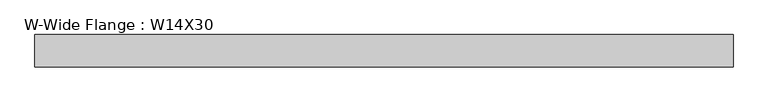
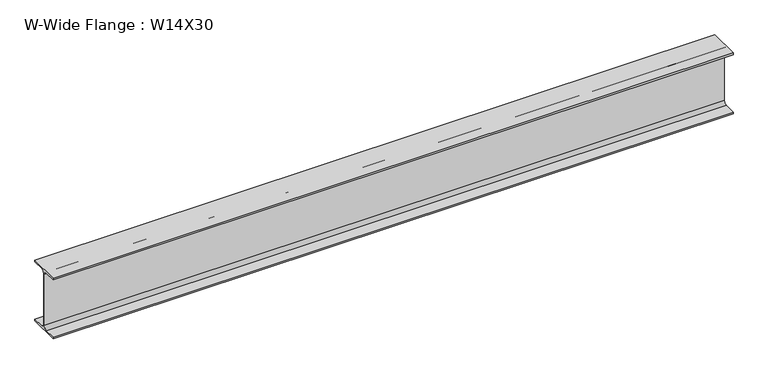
"""IFC4 building model written with IfcOpenShell, lengths in millimetres: beam geometry, W-Wide Flange : W14X30."""

from ifc_helpers import new_model, si_unit, point, frame, frame_2d, origin, place, context, project, spatial, polyline, circle_curve, trimmed, segment, composite_curve, outline, extrude, source, transform, mapped, element, save


def w_wide_flange_w14x30_5e2f6a80(model_context):
    return source(origin(), model_context, "Body", "SweptSolid", [
        extrude(outline(composite_curve([segment(polyline([(85.471, -165.481), (85.471, -175.26), (-85.471, -175.26), (-85.471, -165.481), (-22.225, -165.481)]), True, "CONTINUOUS"), segment(trimmed(circle_curve(frame_2d((-22.225, -146.685)), 18.796), [point((-22.225, -165.481))], [point((-3.429, -146.685))], True, "CARTESIAN"), True, "CONTINUOUS"), segment(polyline([(-3.429, -146.685), (-3.429, 146.685)]), True, "CONTINUOUS"), segment(trimmed(circle_curve(frame_2d((-22.225, 146.685)), 18.796), [point((-3.429, 146.685))], [point((-22.225, 165.481))], True, "CARTESIAN"), True, "CONTINUOUS"), segment(polyline([(-22.225, 165.481), (-85.471, 165.481), (-85.471, 175.26), (85.471, 175.26), (85.471, 165.481), (22.225, 165.481)]), True, "CONTINUOUS"), segment(trimmed(circle_curve(frame_2d((22.225, 146.685)), 18.796), [point((22.225, 165.481))], [point((3.429, 146.685))], True, "CARTESIAN"), True, "CONTINUOUS"), segment(polyline([(3.429, 146.685), (3.429, -146.685)]), True, "CONTINUOUS"), segment(trimmed(circle_curve(frame_2d((22.225, -146.685)), 18.796), [point((3.429, -146.685))], [point((22.225, -165.481))], True, "CARTESIAN"), True, "CONTINUOUS"), segment(polyline([(22.225, -165.481), (85.471, -165.481)]), True, "CONTINUOUS")], self_intersect=False)), frame((-1863.3023799, 0.0, 0.0), z_axis=(1.0, 0.0, 0.0), x_axis=(0.0, 1.0, 0.0)), (0.0, 0.0, 1.0), 3704.1125626),
    ])


if __name__ == "__main__":
    model = new_model("IFC4")
    model_context = context("Model", 3, world=origin())
    ifc_project = project(units=[si_unit("LENGTHUNIT", "METRE", prefix="MILLI")], contexts=[model_context])
    site = spatial("IfcSite", under=ifc_project)
    building = spatial("IfcBuilding", under=site)
    placement = place(None, origin())
    w_wide_flange_w14x30_shape = w_wide_flange_w14x30_5e2f6a80(model_context)
    element("IfcBeam", 1, ObjectType="W-Wide Flange : W14X30", at=placement, inside=building, context=model_context, shape_type="MappedRepresentation", body=[
        mapped(w_wide_flange_w14x30_shape, transform((0.0, 0.0, 0.0), x_axis=(1.0, 0.0, 0.0), y_axis=(0.0, 1.0, 0.0), z_axis=(0.0, 0.0, 1.0))),
    ])
    save(model, "model.ifc")
